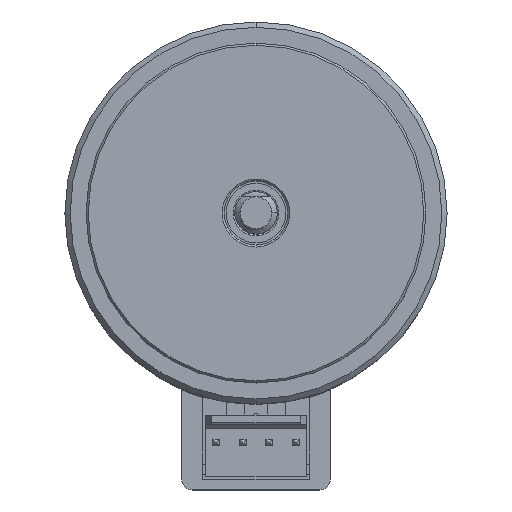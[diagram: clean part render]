
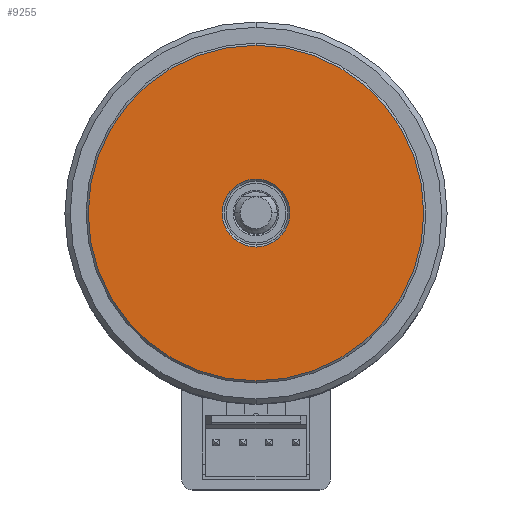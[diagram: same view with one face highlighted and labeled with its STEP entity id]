
A CAD part, top view. The second image highlights one B-rep face of the part: STEP entity #9255.
In plain terms, the highlighted planar face has unit normal (0, 0, 1).
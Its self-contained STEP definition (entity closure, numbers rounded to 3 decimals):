
#1784 = AXIS2_PLACEMENT_3D ( 'NONE', #2596, #2597, #2598 ) ;
#2323 = FACE_BOUND ( 'NONE', #10146, .T. ) ;
#2324 = FACE_OUTER_BOUND ( 'NONE', #10166, .T. ) ;
#2589 = PLANE ( 'NONE',  #1784 ) ;
#2596 = CARTESIAN_POINT ( 'NONE',  ( -1.546, 5.785, 12.107 ) ) ;
#2597 = DIRECTION ( 'NONE',  ( 0., 0., -1. ) ) ;
#2598 = DIRECTION ( 'NONE',  ( 0., 1., 0. ) ) ;
#4091 = AXIS2_PLACEMENT_3D ( 'NONE', #8663, #8664, #8665 ) ;
#4111 = AXIS2_PLACEMENT_3D ( 'NONE', #8781, #8782, #8783 ) ;
#4118 = AXIS2_PLACEMENT_3D ( 'NONE', #8802, #8803, #8804 ) ;
#4119 = AXIS2_PLACEMENT_3D ( 'NONE', #8805, #8806, #8807 ) ;
#7570 = CARTESIAN_POINT ( 'NONE',  ( -1.546, -10.015, 12.107 ) ) ;
#7647 = CARTESIAN_POINT ( 'NONE',  ( -1.546, 2.585, 12.107 ) ) ;
#7648 = CARTESIAN_POINT ( 'NONE',  ( -1.546, 8.985, 12.107 ) ) ;
#7653 = CARTESIAN_POINT ( 'NONE',  ( -1.546, 21.585, 12.107 ) ) ;
#8223 = CIRCLE ( 'NONE', #4091, 3.2 ) ;
#8281 = CIRCLE ( 'NONE', #4111, 15.8 ) ;
#8295 = CIRCLE ( 'NONE', #4118, 15.8 ) ;
#8296 = CIRCLE ( 'NONE', #4119, 3.2 ) ;
#8663 = CARTESIAN_POINT ( 'NONE',  ( -1.546, 5.785, 12.107 ) ) ;
#8664 = DIRECTION ( 'NONE',  ( 0., 0., -1. ) ) ;
#8665 = DIRECTION ( 'NONE',  ( 0., 1., 0. ) ) ;
#8781 = CARTESIAN_POINT ( 'NONE',  ( -1.546, 5.785, 12.107 ) ) ;
#8782 = DIRECTION ( 'NONE',  ( 0., 0., 1. ) ) ;
#8783 = DIRECTION ( 'NONE',  ( 0., 1., 0. ) ) ;
#8802 = CARTESIAN_POINT ( 'NONE',  ( -1.546, 5.785, 12.107 ) ) ;
#8803 = DIRECTION ( 'NONE',  ( 0., 0., 1. ) ) ;
#8804 = DIRECTION ( 'NONE',  ( 0., 1., 0. ) ) ;
#8805 = CARTESIAN_POINT ( 'NONE',  ( -1.546, 5.785, 12.107 ) ) ;
#8806 = DIRECTION ( 'NONE',  ( 0., 0., -1. ) ) ;
#8807 = DIRECTION ( 'NONE',  ( 0., 1., 0. ) ) ;
#9255 = ADVANCED_FACE ( 'NONE', ( #2323, #2324 ), #2589, .F. ) ;
#10146 = EDGE_LOOP ( 'NONE', ( #12163, #12164 ) ) ;
#10166 = EDGE_LOOP ( 'NONE', ( #12165, #12166 ) ) ;
#11282 = VERTEX_POINT ( 'NONE', #7570 ) ;
#11359 = VERTEX_POINT ( 'NONE', #7647 ) ;
#11360 = VERTEX_POINT ( 'NONE', #7648 ) ;
#11365 = VERTEX_POINT ( 'NONE', #7653 ) ;
#11686 = EDGE_CURVE ( 'NONE', #11360, #11359, #8223, .T. ) ;
#11731 = EDGE_CURVE ( 'NONE', #11282, #11365, #8281, .T. ) ;
#11739 = EDGE_CURVE ( 'NONE', #11365, #11282, #8295, .T. ) ;
#11740 = EDGE_CURVE ( 'NONE', #11359, #11360, #8296, .T. ) ;
#12163 = ORIENTED_EDGE ( 'NONE', *, *, #11740, .T. ) ;
#12164 = ORIENTED_EDGE ( 'NONE', *, *, #11686, .T. ) ;
#12165 = ORIENTED_EDGE ( 'NONE', *, *, #11739, .T. ) ;
#12166 = ORIENTED_EDGE ( 'NONE', *, *, #11731, .T. ) ;
